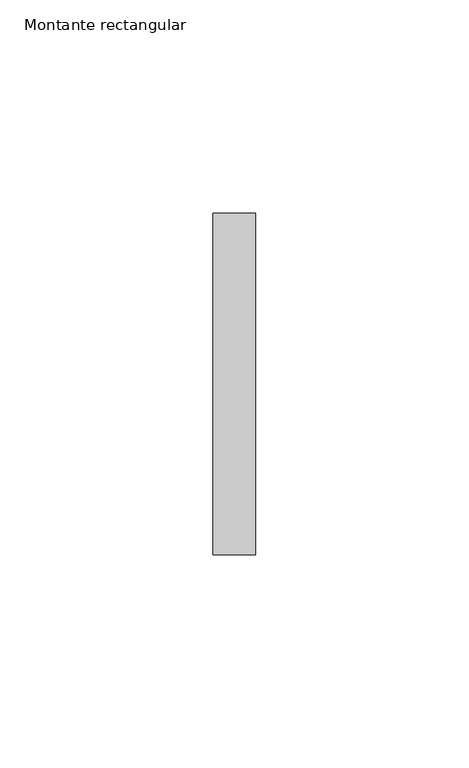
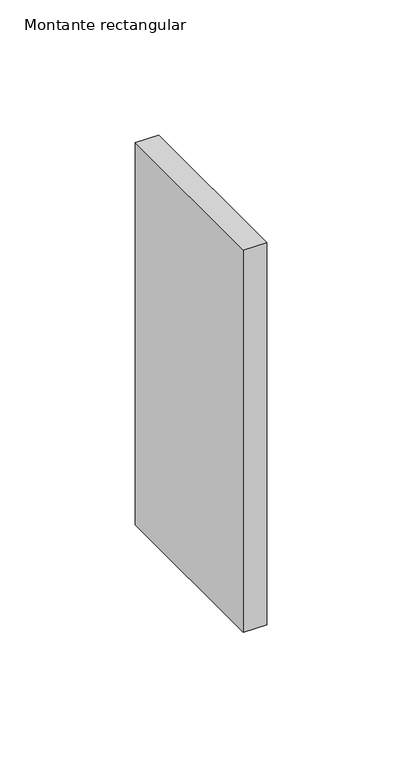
"""IFC4 building model written with IfcOpenShell, lengths in millimetres: member geometry, Montante rectangular : Junta de paves."""

from ifc_helpers import new_model, si_unit, frame, origin, place, context, project, spatial, polyline, outline, extrude, source, transform, mapped, element, save


def montante_rectangular_656bb1b0(model_context):
    return source(origin(), model_context, "Body", "SweptSolid", [
        extrude(outline(polyline([(0.0, 40.0), (0.0, -40.0), (-10.0, -40.0), (-10.0, 40.0), (0.0, 40.0)])), frame((0.0, 0.0, -172.7385141), z_axis=(0.0, 0.0, 1.0), x_axis=(1.0, 0.0, 0.0)), (0.0, 0.0, 1.0), 172.7385141),
    ])


if __name__ == "__main__":
    model = new_model("IFC4")
    model_context = context("Model", 3, world=origin())
    ifc_project = project(units=[si_unit("LENGTHUNIT", "METRE", prefix="MILLI")], contexts=[model_context])
    site = spatial("IfcSite", under=ifc_project)
    building = spatial("IfcBuilding", under=site)
    placement = place(None, origin())
    montante_rectangular_shape = montante_rectangular_656bb1b0(model_context)
    element("IfcMember", 1, ObjectType="Montante rectangular : Junta de paves", at=placement, inside=building, context=model_context, shape_type="MappedRepresentation", body=[
        mapped(montante_rectangular_shape, transform((0.0, 0.0, 0.0), x_axis=(1.0, 0.0, 0.0), y_axis=(0.0, 1.0, 0.0), z_axis=(0.0, 0.0, 1.0))),
    ])
    save(model, "model.ifc")
